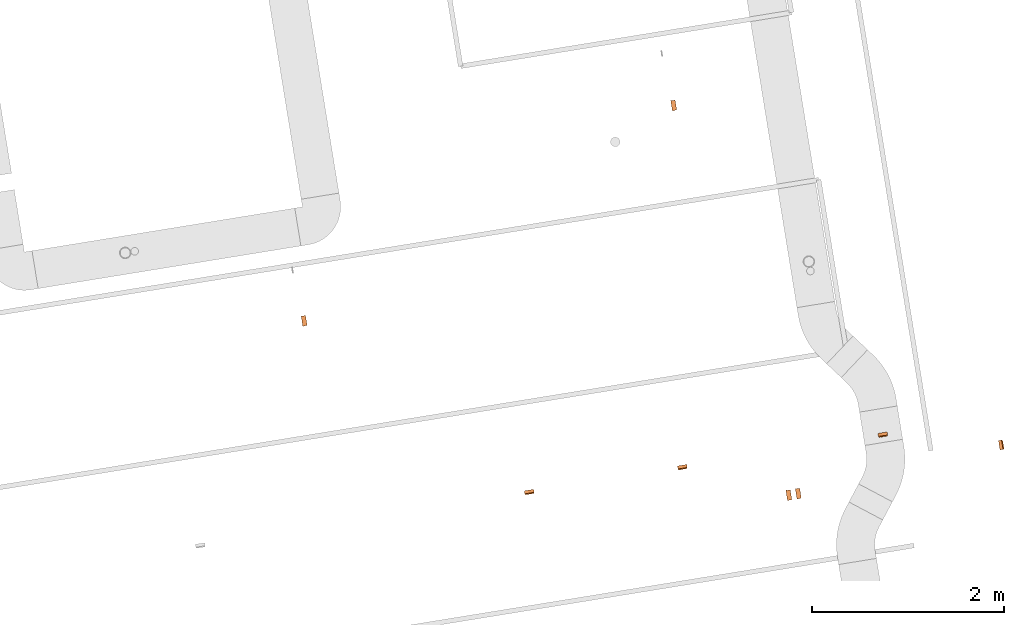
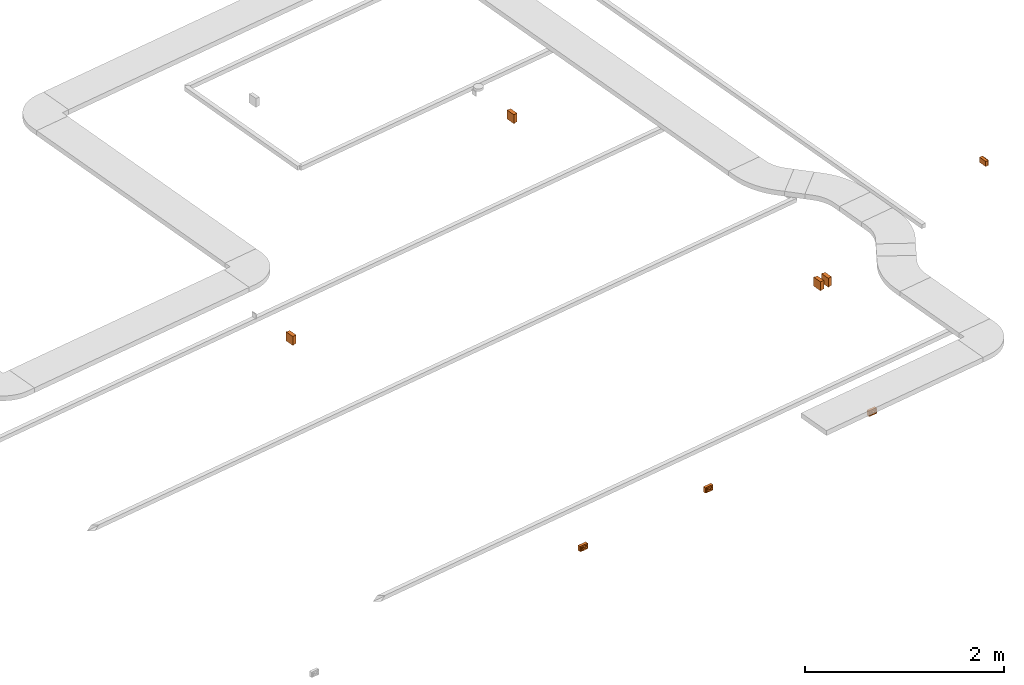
# One storey, part 15 of 20: 8 proxies.
"""IFC2X3 building model written with IfcOpenShell, lengths in millimetres."""

from ifc_helpers import new_model, entity, si_unit, converted_unit, derived_unit, direction, frame, frame_2d, origin, origin_with_axes, origin_2d_with_axis, place, context, subcontext, project, spatial, polyline, circle_curve, parameter, trimmed, segment, composite_curve, rectangle, circle, hollow_circle, outline, extrude, source, transform, mapped, material, type_object, element, save


model = new_model("IFC2X3")

# Units and contexts
model_context = context("Model", 3, precision=0.01, world=origin(), true_north=direction((6.12323399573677e-17, 1.0)))
plan_context = context("Plan", 3, precision=1e-05, world=origin_with_axes())
body_context = subcontext(model_context, "Body", "Model", "MODEL_VIEW")
ifc_project = project(units=[converted_unit("PLANEANGLEUNIT", "DEGREE", entity("IfcPositiveLengthMeasure", 0.0174532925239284), si_unit("PLANEANGLEUNIT", "RADIAN"), dimensions=[0, 0, 0, 0, 0, 0, 0]), si_unit("AREAUNIT", "SQUARE_METRE"), si_unit("LENGTHUNIT", "METRE", prefix="MILLI"), si_unit("MASSUNIT", "GRAM", prefix="KILO"), si_unit("POWERUNIT", "WATT"), si_unit("PRESSUREUNIT", "PASCAL", prefix="KILO"), si_unit("FORCEUNIT", "NEWTON", prefix="KILO"), si_unit("ELECTRICVOLTAGEUNIT", "VOLT"), si_unit("ELECTRICCURRENTUNIT", "AMPERE"), si_unit("THERMODYNAMICTEMPERATUREUNIT", "DEGREE_CELSIUS"), si_unit("TIMEUNIT", "SECOND"), si_unit("VOLUMEUNIT", "CUBIC_METRE"), derived_unit("LINEARVELOCITYUNIT", [(si_unit("LENGTHUNIT", "METRE"), 1), (si_unit("TIMEUNIT", "SECOND"), -1)]), derived_unit("VOLUMETRICFLOWRATEUNIT", [(si_unit("VOLUMEUNIT", "CUBIC_METRE"), 1), (si_unit("TIMEUNIT", "SECOND"), -1)]), derived_unit("THERMALTRANSMITTANCEUNIT", [(si_unit("POWERUNIT", "WATT"), 1), (si_unit("THERMODYNAMICTEMPERATUREUNIT", "KELVIN"), -1), (si_unit("AREAUNIT", "SQUARE_METRE"), -1)]), derived_unit("SOUNDPRESSUREUNIT", [(si_unit("PRESSUREUNIT", "PASCAL"), 1)])], contexts=[model_context, plan_context])

# Site, building, storey
site_placement = place(None, frame((-0.219946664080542, 0.12226179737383, 0.0), z_axis=(0.0, 0.0, 1.0), x_axis=(-0.160236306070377, 0.987078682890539, 0.0)))
site = spatial("IfcSite", under=ifc_project, at=site_placement, Name="Default", CompositionType="ELEMENT")
building_placement = place(site_placement, origin_with_axes())
building = spatial("IfcBuilding", under=site, at=building_placement, CompositionType="ELEMENT")
storey_placement = place(building_placement, frame((0.0, 0.0, 50999.9999999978), z_axis=(0.0, 0.0, 1.0), x_axis=(1.0, 0.0, 0.0)))
storey = spatial("IfcBuildingStorey", under=building, at=storey_placement, Name="Nivå D", CompositionType="ELEMENT", Elevation=50999.9999999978)

# Proxies
ifc_material = material(Name="<Unnamed>")
building_element_proxy_type_1 = type_object("IfcBuildingElementProxyType", Name="1612510-0001:Junction box1", PredefinedType="NOTDEFINED", material=ifc_material)
shared_shape_1 = source(origin(), body_context, "Body", "SweptSolid", [
    extrude(rectangle(XDim=110.0, YDim=13.8000001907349, at=frame_2d((0.0, 2.22044604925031e-15), x_axis=(1.0, 0.0))), frame((0.0, 39.1000008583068, -55.0)), (0.0, 0.0, 1.0), 110.0),
    extrude(rectangle(XDim=104.0, YDim=32.2000007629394, at=origin_2d_with_axis()), frame((0.0, 16.1000003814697, -52.0)), (0.0, 0.0, 1.0), 104.0),
])
for number, where, z_axis, x_axis, name in (
    (1, (773703.326944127, -597194.336232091, 2800.0), (0.0, 0.0, 1.0), (1.0, 0.0, 0.0), "1612510-0001:Junction box1"),
    (2, (775305.430758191, -601363.848419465, 2800.0), (0.0, 0.0, 1.0), (1.0, 0.0, 0.0), "1612510-0001:Junction box1"),
    (3, (771095.708757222, -601998.609447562, 2800.0), (0.0, 0.0, 1.0), (1.0, 0.0, 0.0), "1612510-0001:Junction box1"),
    (4, (771095.708757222, -601898.609447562, 2800.0), (0.0, 0.0, 1.0), (1.0, 0.0, 0.0), "1612510-0001:Junction box1"),
):
    element("IfcBuildingElementProxy", number, at=place(storey_placement, frame(where, z_axis=z_axis, x_axis=x_axis)), inside=storey, type_object=building_element_proxy_type_1, material=ifc_material, Name=name, ObjectType="1612510-0001:Junction box1", context=body_context, shape_type="MappedRepresentation", body=[
        mapped(shared_shape_1, transform((0.0, 0.0, 0.0), scale=1.0)),
    ])
building_element_proxy_type_2 = type_object("IfcBuildingElementProxyType", Name="Dobbel stikk på vegg 2P+J hor PH:EARTHED-SOCKET-2(HOR)", PredefinedType="NOTDEFINED", material=ifc_material)
shared_shape_2 = source(origin(), body_context, "Body", "SweptSolid", [
    extrude(outline(composite_curve([segment(polyline([(-6.66666666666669, -6.66666666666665), (13.3333333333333, -6.66666666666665)]), True, "CONTINUOUS"), segment(trimmed(circle_curve(frame_2d((13.3333333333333, 13.3333333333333), x_axis=(0.0, -1.0)), 20.0), [parameter(270.0)], [parameter(5.08888749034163e-14)], True, "PARAMETER"), False, "CONTINUOUS"), segment(polyline([(-6.66666666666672, 13.3333333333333), (-6.66666666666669, -6.66666666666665)]), True, "CONTINUOUS")], self_intersect=False)), frame((35.3333333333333, 42.8999999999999, 13.3533333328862), z_axis=(0.0, 1.0, 0.0), x_axis=(0.0, 0.0, -1.0)), (0.0, 0.0, 1.0), 0.199999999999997),
    extrude(outline(composite_curve([segment(polyline([(-6.66666666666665, -6.66666666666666), (13.3333333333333, -6.66666666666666)]), True, "CONTINUOUS"), segment(trimmed(circle_curve(frame_2d((13.3333333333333, 13.3333333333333), x_axis=(-1.0, 0.0)), 20.0), [parameter(360.0)], [parameter(89.9999999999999)], True, "PARAMETER"), False, "CONTINUOUS"), segment(polyline([(-6.66666666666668, 13.3333333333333), (-6.66666666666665, -6.66666666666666)]), True, "CONTINUOUS")], self_intersect=False)), frame((35.3333333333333, 42.8999999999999, -13.3233333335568), z_axis=(0.0, 1.0, 0.0), x_axis=(-1.0, 0.0, 0.0)), (0.0, 0.0, 1.0), 0.199999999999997),
    extrude(outline(composite_curve([segment(polyline([(-6.66666666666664, -6.66666666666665), (13.3333333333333, -6.66666666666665)]), True, "CONTINUOUS"), segment(trimmed(circle_curve(frame_2d((13.3333333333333, 13.3333333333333), x_axis=(-1.0, 0.0)), 20.0), [parameter(0.0)], [parameter(89.9999999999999)], True, "PARAMETER"), False, "CONTINUOUS"), segment(polyline([(-6.66666666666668, 13.3333333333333), (-6.66666666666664, -6.66666666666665)]), True, "CONTINUOUS")], self_intersect=False)), frame((8.66666666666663, 42.8999999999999, 13.3433333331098), z_axis=(0.0, 1.0, 0.0), x_axis=(1.0, 0.0, 0.0)), (0.0, 0.0, 1.0), 0.199999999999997),
    extrude(outline(composite_curve([segment(polyline([(-6.66666666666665, -6.66666666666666), (13.3333333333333, -6.66666666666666)]), True, "CONTINUOUS"), segment(trimmed(circle_curve(frame_2d((13.3333333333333, 13.3333333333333), x_axis=(-1.0, 0.0)), 20.0), [parameter(360.0)], [parameter(89.9999999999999)], True, "PARAMETER"), False, "CONTINUOUS"), segment(polyline([(-6.66666666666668, 13.3333333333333), (-6.66666666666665, -6.66666666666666)]), True, "CONTINUOUS")], self_intersect=False)), frame((35.3333333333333, 42.8999999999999, -13.3433333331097), z_axis=(0.0, 1.0, 0.0), x_axis=(-1.0, 0.0, 0.0)), (0.0, 0.0, 1.0), 0.199999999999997),
    extrude(outline(composite_curve([segment(polyline([(-6.66666666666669, -6.66666666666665), (13.3333333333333, -6.66666666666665)]), True, "CONTINUOUS"), segment(trimmed(circle_curve(frame_2d((13.3333333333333, 13.3333333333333), x_axis=(0.0, -1.0)), 20.0), [parameter(270.0)], [parameter(5.08888749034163e-14)], True, "PARAMETER"), False, "CONTINUOUS"), segment(polyline([(-6.66666666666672, 13.3333333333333), (-6.66666666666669, -6.66666666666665)]), True, "CONTINUOUS")], self_intersect=False)), frame((35.3333333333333, 42.8999999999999, 13.3333333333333), z_axis=(0.0, 1.0, 0.0), x_axis=(0.0, 0.0, -1.0)), (0.0, 0.0, 1.0), 0.199999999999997),
    extrude(outline(composite_curve([segment(polyline([(-6.66666666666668, -6.66666666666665), (13.3333333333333, -6.66666666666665)]), True, "CONTINUOUS"), segment(trimmed(circle_curve(frame_2d((13.3333333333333, 13.3333333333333), x_axis=(0.0, -1.0)), 20.0), [parameter(270.0)], [parameter(0.0)], True, "PARAMETER"), False, "CONTINUOUS"), segment(polyline([(-6.66666666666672, 13.3333333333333), (-6.66666666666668, -6.66666666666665)]), True, "CONTINUOUS")], self_intersect=False)), frame((8.66666666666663, 42.8999999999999, -13.3333333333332), z_axis=(0.0, 1.0, 0.0), x_axis=(0.0, 0.0, 1.0)), (0.0, 0.0, 1.0), 0.199999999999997),
    extrude(outline(composite_curve([segment(polyline([(-6.66666666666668, -6.66666666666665), (13.3333333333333, -6.66666666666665)]), True, "CONTINUOUS"), segment(trimmed(circle_curve(frame_2d((13.3333333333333, 13.3333333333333), x_axis=(0.0, -1.0)), 20.0), [parameter(270.0)], [parameter(0.0)], True, "PARAMETER"), False, "CONTINUOUS"), segment(polyline([(-6.66666666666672, 13.3333333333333), (-6.66666666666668, -6.66666666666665)]), True, "CONTINUOUS")], self_intersect=False)), frame((-8.66666666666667, 42.8999999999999, 13.3533333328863), z_axis=(0.0, 1.0, 0.0), x_axis=(0.0, 0.0, -1.0)), (0.0, 0.0, 1.0), 0.199999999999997),
    extrude(outline(composite_curve([segment(polyline([(-6.66666666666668, -6.66666666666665), (13.3333333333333, -6.66666666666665)]), True, "CONTINUOUS"), segment(trimmed(circle_curve(frame_2d((13.3333333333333, 13.3333333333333), x_axis=(-1.0, 0.0)), 20.0), [parameter(0.0)], [parameter(90.0)], True, "PARAMETER"), False, "CONTINUOUS"), segment(polyline([(-6.66666666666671, 13.3333333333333), (-6.66666666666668, -6.66666666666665)]), True, "CONTINUOUS")], self_intersect=False)), frame((-8.66666666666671, 42.8999999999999, -13.3233333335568), z_axis=(0.0, 1.0, 0.0), x_axis=(-1.0, 0.0, 0.0)), (0.0, 0.0, 1.0), 0.199999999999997),
    extrude(outline(composite_curve([segment(polyline([(-6.66666666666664, -6.66666666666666), (13.3333333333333, -6.66666666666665)]), True, "CONTINUOUS"), segment(trimmed(circle_curve(frame_2d((13.3333333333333, 13.3333333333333), x_axis=(-1.0, 0.0)), 20.0), [parameter(360.0)], [parameter(89.9999999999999)], True, "PARAMETER"), False, "CONTINUOUS"), segment(polyline([(-6.66666666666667, 13.3333333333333), (-6.66666666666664, -6.66666666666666)]), True, "CONTINUOUS")], self_intersect=False)), frame((-35.3333333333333, 42.8999999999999, 13.3433333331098), z_axis=(0.0, 1.0, 0.0), x_axis=(1.0, 0.0, 0.0)), (0.0, 0.0, 1.0), 0.199999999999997),
    extrude(outline(composite_curve([segment(polyline([(-6.66666666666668, -6.66666666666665), (13.3333333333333, -6.66666666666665)]), True, "CONTINUOUS"), segment(trimmed(circle_curve(frame_2d((13.3333333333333, 13.3333333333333), x_axis=(-1.0, 0.0)), 20.0), [parameter(0.0)], [parameter(90.0)], True, "PARAMETER"), False, "CONTINUOUS"), segment(polyline([(-6.66666666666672, 13.3333333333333), (-6.66666666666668, -6.66666666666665)]), True, "CONTINUOUS")], self_intersect=False)), frame((-8.66666666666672, 42.8999999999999, -13.3433333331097), z_axis=(0.0, 1.0, 0.0), x_axis=(-1.0, 0.0, 0.0)), (0.0, 0.0, 1.0), 0.199999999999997),
    extrude(outline(composite_curve([segment(polyline([(-6.66666666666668, -6.66666666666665), (13.3333333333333, -6.66666666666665)]), True, "CONTINUOUS"), segment(trimmed(circle_curve(frame_2d((13.3333333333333, 13.3333333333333), x_axis=(0.0, -1.0)), 20.0), [parameter(270.0)], [parameter(0.0)], True, "PARAMETER"), False, "CONTINUOUS"), segment(polyline([(-6.66666666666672, 13.3333333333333), (-6.66666666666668, -6.66666666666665)]), True, "CONTINUOUS")], self_intersect=False)), frame((-8.66666666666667, 42.8999999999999, 13.3333333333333), z_axis=(0.0, 1.0, 0.0), x_axis=(0.0, 0.0, -1.0)), (0.0, 0.0, 1.0), 0.199999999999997),
    extrude(outline(composite_curve([segment(polyline([(-6.66666666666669, -6.66666666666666), (13.3333333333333, -6.66666666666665)]), True, "CONTINUOUS"), segment(trimmed(circle_curve(frame_2d((13.3333333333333, 13.3333333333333), x_axis=(0.0, -1.0)), 20.0), [parameter(270.0)], [parameter(5.08888749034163e-14)], True, "PARAMETER"), False, "CONTINUOUS"), segment(polyline([(-6.66666666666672, 13.3333333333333), (-6.66666666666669, -6.66666666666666)]), True, "CONTINUOUS")], self_intersect=False)), frame((-35.3333333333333, 42.8999999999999, -13.3333333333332), z_axis=(0.0, 1.0, 0.0), x_axis=(0.0, 0.0, 1.0)), (0.0, 0.0, 1.0), 0.199999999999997),
    extrude(rectangle(XDim=9.99999999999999, YDim=1.0, at=frame_2d((0.0, 2.1094237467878e-15), x_axis=(1.0, 0.0))), frame((22.0, 40.0, -17.6), z_axis=(0.0, 0.0, 1.0), x_axis=(0.0, -1.0, 0.0)), (0.0, 0.0, 1.0), 0.199999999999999),
    extrude(rectangle(XDim=21.5, YDim=1.0, at=frame_2d((0.0, 8.43769498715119e-15), x_axis=(1.0, 0.0))), frame((22.0, 32.25, -19.6), z_axis=(0.0, 0.0, 1.0), x_axis=(0.0, -1.0, 0.0)), (0.0, 0.0, 1.0), 0.200000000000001),
    extrude(rectangle(XDim=9.99999999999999, YDim=1.0, at=frame_2d((0.0, 2.1094237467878e-15), x_axis=(1.0, 0.0))), frame((22.0, 40.0, 17.4), z_axis=(0.0, 0.0, 1.0), x_axis=(0.0, -1.0, 0.0)), (0.0, 0.0, 1.0), 0.199999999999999),
    extrude(rectangle(XDim=21.5, YDim=1.0, at=frame_2d((0.0, 8.43769498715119e-15), x_axis=(1.0, 0.0))), frame((22.0, 32.25, 19.4), z_axis=(0.0, 0.0, 1.0), x_axis=(0.0, -1.0, 0.0)), (0.0, 0.0, 1.0), 0.200000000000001),
    extrude(rectangle(XDim=9.99999999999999, YDim=1.0, at=frame_2d((0.0, -2.1094237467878e-15), x_axis=(1.0, 0.0))), frame((-22.0, 40.0, -17.6), z_axis=(0.0, 0.0, 1.0), x_axis=(0.0, -1.0, 0.0)), (0.0, 0.0, 1.0), 0.199999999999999),
    extrude(rectangle(XDim=21.5, YDim=1.0, at=frame_2d((0.0, 8.43769498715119e-15), x_axis=(1.0, 0.0))), frame((-22.0, 32.25, -19.6), z_axis=(0.0, 0.0, 1.0), x_axis=(0.0, -1.0, 0.0)), (0.0, 0.0, 1.0), 0.200000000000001),
    extrude(rectangle(XDim=9.99999999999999, YDim=1.0, at=frame_2d((0.0, -2.1094237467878e-15), x_axis=(1.0, 0.0))), frame((-22.0, 40.0, 17.4), z_axis=(0.0, 0.0, 1.0), x_axis=(0.0, -1.0, 0.0)), (0.0, 0.0, 1.0), 0.199999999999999),
    extrude(rectangle(XDim=21.5, YDim=1.0, at=frame_2d((0.0, 8.43769498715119e-15), x_axis=(1.0, 0.0))), frame((-22.0, 32.25, 19.4), z_axis=(0.0, 0.0, 1.0), x_axis=(0.0, -1.0, 0.0)), (0.0, 0.0, 1.0), 0.200000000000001),
    extrude(rectangle(XDim=0.199999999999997, YDim=2.0, at=frame_2d((4.2257863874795e-15, 0.0), x_axis=(1.0, 0.0))), frame((43.0, 43.0, 0.0199999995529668), z_axis=(0.0, 0.0, 1.0), x_axis=(0.0, 1.0, 0.0)), (0.0, 0.0, 1.0), 20.0),
    extrude(rectangle(XDim=0.199999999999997, YDim=40.0, at=frame_2d((4.2257863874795e-15, 0.0), x_axis=(1.0, 0.0))), frame((22.0, 43.0, 20.0199999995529), z_axis=(0.0, 0.0, 1.0), x_axis=(0.0, 1.0, 0.0)), (0.0, 0.0, 1.0), 6.5),
    extrude(rectangle(XDim=0.199999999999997, YDim=2.0, at=frame_2d((4.2257863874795e-15, 0.0), x_axis=(1.0, 0.0))), frame((43.0, 43.0, -19.9900000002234), z_axis=(0.0, 0.0, 1.0), x_axis=(0.0, -1.0, 0.0)), (0.0, 0.0, 1.0), 20.0),
    extrude(rectangle(XDim=0.199999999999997, YDim=40.0, at=frame_2d((4.2257863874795e-15, 0.0), x_axis=(1.0, 0.0))), frame((22.0, 43.0, -26.4900000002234), z_axis=(0.0, 0.0, 1.0), x_axis=(0.0, -1.0, 0.0)), (0.0, 0.0, 1.0), 6.49999999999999),
    extrude(rectangle(XDim=0.199999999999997, YDim=2.0, at=frame_2d((4.2257863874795e-15, 0.0), x_axis=(1.0, 0.0))), frame((1.0, 43.0, 0.00999999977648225), z_axis=(0.0, 0.0, 1.0), x_axis=(0.0, -1.0, 0.0)), (0.0, 0.0, 1.0), 20.0),
    extrude(rectangle(XDim=0.199999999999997, YDim=2.0, at=frame_2d((4.2257863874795e-15, 0.0), x_axis=(1.0, 0.0))), frame((43.0, 43.0, -20.0099999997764), z_axis=(0.0, 0.0, 1.0), x_axis=(0.0, -1.0, 0.0)), (0.0, 0.0, 1.0), 20.0),
    extrude(rectangle(XDim=0.199999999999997, YDim=40.0, at=frame_2d((4.2257863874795e-15, 0.0), x_axis=(1.0, 0.0))), frame((22.0, 43.0, -26.5099999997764), z_axis=(0.0, 0.0, 1.0), x_axis=(0.0, -1.0, 0.0)), (0.0, 0.0, 1.0), 6.5),
    extrude(rectangle(XDim=0.199999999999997, YDim=2.0, at=frame_2d((4.2257863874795e-15, 0.0), x_axis=(1.0, 0.0))), frame((43.0, 43.0, 0.0), z_axis=(0.0, 0.0, 1.0), x_axis=(0.0, 1.0, 0.0)), (0.0, 0.0, 1.0), 20.0),
    extrude(rectangle(XDim=0.199999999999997, YDim=40.0, at=frame_2d((4.2257863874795e-15, 0.0), x_axis=(1.0, 0.0))), frame((22.0, 43.0, 20.0), z_axis=(0.0, 0.0, 1.0), x_axis=(0.0, 1.0, 0.0)), (0.0, 0.0, 1.0), 6.5),
    extrude(rectangle(XDim=0.199999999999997, YDim=2.0, at=frame_2d((4.2257863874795e-15, 0.0), x_axis=(1.0, 0.0))), frame((1.0, 43.0, -20.0), z_axis=(0.0, 0.0, 1.0), x_axis=(0.0, 1.0, 0.0)), (0.0, 0.0, 1.0), 20.0),
    extrude(rectangle(XDim=0.199999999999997, YDim=2.0, at=frame_2d((4.2257863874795e-15, 0.0), x_axis=(1.0, 0.0))), frame((-1.0, 43.0, 0.0199999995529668), z_axis=(0.0, 0.0, 1.0), x_axis=(0.0, 1.0, 0.0)), (0.0, 0.0, 1.0), 20.0),
    extrude(rectangle(XDim=0.199999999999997, YDim=40.0, at=frame_2d((4.2257863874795e-15, 0.0), x_axis=(1.0, 0.0))), frame((-22.0, 43.0, 20.0199999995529), z_axis=(0.0, 0.0, 1.0), x_axis=(0.0, 1.0, 0.0)), (0.0, 0.0, 1.0), 6.5),
    extrude(rectangle(XDim=0.199999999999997, YDim=2.0, at=frame_2d((4.2257863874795e-15, 0.0), x_axis=(1.0, 0.0))), frame((-1.0, 43.0, -19.9900000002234), z_axis=(0.0, 0.0, 1.0), x_axis=(0.0, -1.0, 0.0)), (0.0, 0.0, 1.0), 20.0),
    extrude(rectangle(XDim=0.199999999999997, YDim=40.0, at=frame_2d((4.2257863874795e-15, 0.0), x_axis=(1.0, 0.0))), frame((-22.0, 43.0, -26.4900000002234), z_axis=(0.0, 0.0, 1.0), x_axis=(0.0, -1.0, 0.0)), (0.0, 0.0, 1.0), 6.49999999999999),
    extrude(rectangle(XDim=0.199999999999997, YDim=1.99999999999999, at=frame_2d((4.2257863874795e-15, 4.2188474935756e-15), x_axis=(1.0, 0.0))), frame((-43.0, 43.0, 0.00999999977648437), z_axis=(0.0, 0.0, 1.0), x_axis=(0.0, -1.0, 0.0)), (0.0, 0.0, 1.0), 20.0),
    extrude(rectangle(XDim=0.199999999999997, YDim=2.0, at=frame_2d((4.2257863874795e-15, 0.0), x_axis=(1.0, 0.0))), frame((-1.0, 43.0, -20.0099999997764), z_axis=(0.0, 0.0, 1.0), x_axis=(0.0, -1.0, 0.0)), (0.0, 0.0, 1.0), 20.0),
    extrude(rectangle(XDim=0.199999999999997, YDim=40.0, at=frame_2d((4.2257863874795e-15, 0.0), x_axis=(1.0, 0.0))), frame((-22.0, 43.0, -26.5099999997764), z_axis=(0.0, 0.0, 1.0), x_axis=(0.0, -1.0, 0.0)), (0.0, 0.0, 1.0), 6.5),
    extrude(rectangle(XDim=0.199999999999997, YDim=2.0, at=frame_2d((4.2257863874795e-15, 0.0), x_axis=(1.0, 0.0))), frame((-1.0, 43.0, 0.0), z_axis=(0.0, 0.0, 1.0), x_axis=(0.0, 1.0, 0.0)), (0.0, 0.0, 1.0), 20.0),
    extrude(rectangle(XDim=0.199999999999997, YDim=40.0, at=frame_2d((4.2257863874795e-15, 0.0), x_axis=(1.0, 0.0))), frame((-22.0, 43.0, 20.0), z_axis=(0.0, 0.0, 1.0), x_axis=(0.0, 1.0, 0.0)), (0.0, 0.0, 1.0), 6.5),
    extrude(rectangle(XDim=0.199999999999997, YDim=1.99999999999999, at=frame_2d((4.2257863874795e-15, -4.2188474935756e-15), x_axis=(1.0, 0.0))), frame((-43.0, 43.0, -20.0), z_axis=(0.0, 0.0, 1.0), x_axis=(0.0, 1.0, 0.0)), (0.0, 0.0, 1.0), 20.0),
    extrude(rectangle(XDim=0.199999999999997, YDim=2.0, at=frame_2d((4.2257863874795e-15, 0.0), x_axis=(1.0, 0.0))), frame((-1.0, 43.0, -26.5), z_axis=(0.0, 0.0, 1.0), x_axis=(0.0, 1.0, 0.0)), (0.0, 0.0, 1.0), 6.49999999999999),
    extrude(rectangle(XDim=0.199999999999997, YDim=1.99999999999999, at=frame_2d((4.2257863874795e-15, 4.2188474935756e-15), x_axis=(1.0, 0.0))), frame((-43.0, 43.0, -26.5), z_axis=(0.0, 0.0, 1.0), x_axis=(0.0, 1.0, 0.0)), (0.0, 0.0, 1.0), 6.49999999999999),
    extrude(rectangle(XDim=0.199999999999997, YDim=2.0, at=frame_2d((4.2257863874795e-15, 0.0), x_axis=(1.0, 0.0))), frame((1.0, 43.0, -26.5), z_axis=(0.0, 0.0, 1.0), x_axis=(0.0, 1.0, 0.0)), (0.0, 0.0, 1.0), 6.49999999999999),
    extrude(rectangle(XDim=0.199999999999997, YDim=1.99999999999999, at=frame_2d((4.2257863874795e-15, -4.2188474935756e-15), x_axis=(1.0, 0.0))), frame((43.0, 43.0, -26.5), z_axis=(0.0, 0.0, 1.0), x_axis=(0.0, 1.0, 0.0)), (0.0, 0.0, 1.0), 6.49999999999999),
    extrude(outline(polyline([(-24.3180677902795, -42.966633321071), (-11.2413709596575, -42.9666333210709), (22.4062700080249, 38.3465652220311), (13.1531687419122, 47.5867014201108), (-24.3180677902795, -42.966633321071)])), frame((0.0, 37.5413802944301, -29.0910366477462), z_axis=(0.0, -0.413802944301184, 0.910366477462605), x_axis=(-0.382359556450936, 0.84119102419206, 0.382359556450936)), (0.0, 0.0, 1.0), 0.199999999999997),
    extrude(outline(polyline([(-31.5, -6.04152298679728), (31.5, -6.04152298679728), (26.5, 6.04152298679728), (-26.5, 6.04152298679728), (-31.5, -6.04152298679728)])), frame((-46.5910366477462, 37.5413802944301, 0.0), z_axis=(0.910366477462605, -0.413802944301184, 0.0), x_axis=(0.0, 0.0, -1.0)), (0.0, 0.0, 1.0), 0.200000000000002),
    extrude(outline(polyline([(-31.5, -6.04152298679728), (31.5, -6.04152298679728), (26.5, 6.04152298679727), (-26.5, 6.04152298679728), (-31.5, -6.04152298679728)])), frame((46.4089633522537, 37.4586197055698, 0.0), z_axis=(0.910366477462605, 0.413802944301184, 0.0), x_axis=(0.0, 0.0, -1.0)), (0.0, 0.0, 1.0), 0.199999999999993),
    extrude(rectangle(XDim=32.0, YDim=97.9999999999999, at=frame_2d((1.77635683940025e-15, 0.0), x_axis=(1.0, 0.0))), frame((0.0, 16.0, -31.6), z_axis=(0.0, 0.0, 1.0), x_axis=(0.0, -1.0, 0.0)), (0.0, 0.0, 1.0), 0.200000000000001),
    extrude(rectangle(XDim=0.199999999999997, YDim=2.0, at=frame_2d((4.2257863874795e-15, 0.0), x_axis=(1.0, 0.0))), frame((-1.0, 43.0, 20.0), z_axis=(0.0, 0.0, 1.0), x_axis=(0.0, 1.0, 0.0)), (0.0, 0.0, 1.0), 6.49999999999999),
    extrude(rectangle(XDim=0.199999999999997, YDim=1.99999999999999, at=frame_2d((4.2257863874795e-15, 4.2188474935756e-15), x_axis=(1.0, 0.0))), frame((-43.0, 43.0, 20.0), z_axis=(0.0, 0.0, 1.0), x_axis=(0.0, 1.0, 0.0)), (0.0, 0.0, 1.0), 6.49999999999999),
    extrude(outline(polyline([(-44.0, -6.04152298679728), (44.0, -6.04152298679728), (49.0, 6.04152298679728), (-49.0, 6.04152298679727), (-44.0, -6.04152298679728)])), frame((0.0, 37.4586197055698, 28.9089633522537), z_axis=(0.0, 0.413802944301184, 0.910366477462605), x_axis=(-1.0, 0.0, 0.0)), (0.0, 0.0, 1.0), 0.200000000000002),
    extrude(rectangle(XDim=0.199999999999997, YDim=2.0, at=frame_2d((4.2257863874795e-15, 0.0), x_axis=(1.0, 0.0))), frame((1.0, 43.0, 20.0), z_axis=(0.0, 0.0, 1.0), x_axis=(0.0, 1.0, 0.0)), (0.0, 0.0, 1.0), 6.49999999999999),
    extrude(rectangle(XDim=0.199999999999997, YDim=1.99999999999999, at=frame_2d((4.2257863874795e-15, -4.2188474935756e-15), x_axis=(1.0, 0.0))), frame((43.0, 43.0, 20.0), z_axis=(0.0, 0.0, 1.0), x_axis=(0.0, 1.0, 0.0)), (0.0, 0.0, 1.0), 6.49999999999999),
    extrude(rectangle(XDim=32.0, YDim=97.9999999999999, at=frame_2d((1.77635683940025e-15, 0.0), x_axis=(1.0, 0.0))), frame((0.0, 16.0, 31.4), z_axis=(0.0, 0.0, 1.0), x_axis=(0.0, -1.0, 0.0)), (0.0, 0.0, 1.0), 0.200000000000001),
    extrude(rectangle(XDim=0.199999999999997, YDim=32.0, at=frame_2d((-4.2257863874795e-15, 0.0), x_axis=(1.0, 0.0))), frame((49.0, 16.0, -31.5)), (0.0, 0.0, 1.0), 62.9999999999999),
    extrude(rectangle(XDim=0.199999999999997, YDim=32.0, at=frame_2d((-4.2257863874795e-15, 0.0), x_axis=(1.0, 0.0))), frame((-49.0, 16.0, -31.5)), (0.0, 0.0, 1.0), 62.9999999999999),
    extrude(rectangle(XDim=0.2, YDim=97.9999999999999, at=origin_2d_with_axis()), frame((0.0, 0.0, -31.5), z_axis=(0.0, 0.0, 1.0), x_axis=(0.0, 1.0, 0.0)), (0.0, 0.0, 1.0), 62.9999999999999),
    extrude(circle(Radius=2.5, at=frame_2d((0.0, -4.22994972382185e-15), x_axis=(1.0, 0.0))), frame((32.0, 21.450000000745, 0.0), z_axis=(0.0, 1.0, 0.0), x_axis=(0.0, 0.0, 1.0)), (0.0, 0.0, 1.0), 0.200000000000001),
    extrude(circle(Radius=2.5, at=frame_2d((0.0, -4.22994972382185e-15), x_axis=(1.0, 0.0))), frame((12.0, 21.450000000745, 0.0), z_axis=(0.0, 1.0, 0.0), x_axis=(0.0, 0.0, 1.0)), (0.0, 0.0, 1.0), 0.200000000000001),
    extrude(circle(Radius=2.5, at=frame_2d((0.0, -4.22994972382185e-15), x_axis=(1.0, 0.0))), frame((-12.0, 21.450000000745, 0.0), z_axis=(0.0, 1.0, 0.0), x_axis=(0.0, 0.0, 1.0)), (0.0, 0.0, 1.0), 0.200000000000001),
    extrude(circle(Radius=2.5, at=frame_2d((0.0, -4.22994972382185e-15), x_axis=(1.0, 0.0))), frame((-32.0, 21.450000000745, 0.0), z_axis=(0.0, 1.0, 0.0), x_axis=(0.0, 0.0, 1.0)), (0.0, 0.0, 1.0), 0.200000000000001),
    extrude(circle(Radius=20.0, at=frame_2d((0.0, -2.96096480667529e-14), x_axis=(1.0, 0.0))), frame((22.0, 21.4, 0.0), z_axis=(0.0, 1.0, 0.0), x_axis=(0.0, 0.0, 1.0)), (0.0, 0.0, 1.0), 0.200000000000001),
    extrude(circle(Radius=20.0, at=frame_2d((0.0, -2.96096480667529e-14), x_axis=(1.0, 0.0))), frame((-22.0, 21.4, 0.0), z_axis=(0.0, 1.0, 0.0), x_axis=(0.0, 0.0, 1.0)), (0.0, 0.0, 1.0), 0.200000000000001),
    extrude(outline(composite_curve([segment(trimmed(circle_curve(frame_2d((-0.800000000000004, 0.800000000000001), x_axis=(1.0, 0.0)), 2.0), [parameter(270.0)], [parameter(0.0)], True, "PARAMETER"), True, "CONTINUOUS"), segment(polyline([(1.2, 0.8), (0.399999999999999, 0.8)]), True, "CONTINUOUS"), segment(trimmed(circle_curve(frame_2d((-0.800000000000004, 0.799999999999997), x_axis=(0.0, -1.0)), 1.2), [parameter(0.0)], [parameter(89.9999999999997)], True, "PARAMETER"), False, "CONTINUOUS"), segment(polyline([(-0.799999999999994, -0.400000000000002), (-0.799999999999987, -1.2)]), True, "CONTINUOUS")], self_intersect=False)), frame((20.5, 43.7999999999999, -18.3), z_axis=(1.0, 0.0, 0.0), x_axis=(0.0, 1.0, 0.0)), (0.0, 0.0, 1.0), 2.0),
    extrude(outline(composite_curve([segment(polyline([(-1.2, -0.800000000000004), (-0.399999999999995, -0.800000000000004)]), True, "CONTINUOUS"), segment(trimmed(circle_curve(frame_2d((0.800000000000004, -0.800000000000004), x_axis=(-1.0, 0.0)), 1.2), [parameter(270.0)], [parameter(0.0)], True, "PARAMETER"), False, "CONTINUOUS"), segment(polyline([(0.799999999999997, 0.399999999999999), (0.79999999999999, 1.2)]), True, "CONTINUOUS"), segment(trimmed(circle_curve(frame_2d((0.800000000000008, -0.800000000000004), x_axis=(0.0, 1.0)), 2.0), [parameter(0.0)], [parameter(89.9999999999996)], True, "PARAMETER"), True, "CONTINUOUS")], self_intersect=False)), frame((21.5, 43.8, 18.3), z_axis=(1.0, 0.0, 0.0), x_axis=(0.0, 0.0, -1.0)), (0.0, 0.0, 1.0), 2.0),
    extrude(outline(composite_curve([segment(trimmed(circle_curve(frame_2d((-0.800000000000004, 0.800000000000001), x_axis=(1.0, 0.0)), 2.0), [parameter(270.0)], [parameter(0.0)], True, "PARAMETER"), True, "CONTINUOUS"), segment(polyline([(1.2, 0.8), (0.399999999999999, 0.8)]), True, "CONTINUOUS"), segment(trimmed(circle_curve(frame_2d((-0.800000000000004, 0.799999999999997), x_axis=(0.0, -1.0)), 1.2), [parameter(0.0)], [parameter(89.9999999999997)], True, "PARAMETER"), False, "CONTINUOUS"), segment(polyline([(-0.799999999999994, -0.400000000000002), (-0.799999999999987, -1.2)]), True, "CONTINUOUS")], self_intersect=False)), frame((-23.5, 43.7999999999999, -18.3), z_axis=(1.0, 0.0, 0.0), x_axis=(0.0, 1.0, 0.0)), (0.0, 0.0, 1.0), 2.0),
    extrude(outline(composite_curve([segment(polyline([(-1.2, -0.800000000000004), (-0.399999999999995, -0.800000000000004)]), True, "CONTINUOUS"), segment(trimmed(circle_curve(frame_2d((0.800000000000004, -0.800000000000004), x_axis=(-1.0, 0.0)), 1.2), [parameter(270.0)], [parameter(0.0)], True, "PARAMETER"), False, "CONTINUOUS"), segment(polyline([(0.799999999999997, 0.399999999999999), (0.79999999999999, 1.2)]), True, "CONTINUOUS"), segment(trimmed(circle_curve(frame_2d((0.800000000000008, -0.800000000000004), x_axis=(0.0, 1.0)), 2.0), [parameter(0.0)], [parameter(89.9999999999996)], True, "PARAMETER"), True, "CONTINUOUS")], self_intersect=False)), frame((-22.5, 43.8, 18.3), z_axis=(1.0, 0.0, 0.0), x_axis=(0.0, 0.0, -1.0)), (0.0, 0.0, 1.0), 2.0),
    extrude(hollow_circle(Radius=20.0, WallThickness=0.199999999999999, at=frame_2d((0.0, -2.96096480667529e-14), x_axis=(1.0, 0.0))), frame((22.0, 21.5, 0.0), z_axis=(0.0, 1.0, 0.0), x_axis=(0.0, 0.0, 1.0)), (0.0, 0.0, 1.0), 21.5),
    extrude(hollow_circle(Radius=20.0, WallThickness=0.199999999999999, at=frame_2d((0.0, -2.96096480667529e-14), x_axis=(1.0, 0.0))), frame((-22.0, 21.5, 0.0), z_axis=(0.0, 1.0, 0.0), x_axis=(0.0, 0.0, 1.0)), (0.0, 0.0, 1.0), 21.5),
])
for number, where, z_axis, x_axis in (
    (5, (771582.519644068, -602945.442936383, 500.0), (0.0, 0.0, 1.0), (0.0, 1.0, 0.0)),
    (6, (771582.519644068, -600825.442936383, 500.0), (0.0, 0.0, 1.0), (0.0, 1.0, 0.0)),
    (7, (771582.519644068, -599205.442936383, 500.0), (0.0, 0.0, 1.0), (0.0, 1.0, 0.0)),
    (8, (771257.619644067, -604127.480498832, 3200.0), (0.0, 0.0, 1.0), (-1.0, 0.0, 0.0)),
):
    element("IfcBuildingElementProxy", number, at=place(storey_placement, frame(where, z_axis=z_axis, x_axis=x_axis)), inside=storey, type_object=building_element_proxy_type_2, material=ifc_material, Name="Dobbel stikk på vegg 2P+J hor PH:EARTHED-SOCKET-2(HOR)", ObjectType="Dobbel stikk på vegg 2P+J hor PH:EARTHED-SOCKET-2(HOR)", context=body_context, shape_type="MappedRepresentation", body=[
        mapped(shared_shape_2, transform((0.0, 0.0, 0.0), scale=1.0)),
    ])

save(model, "model.ifc")
